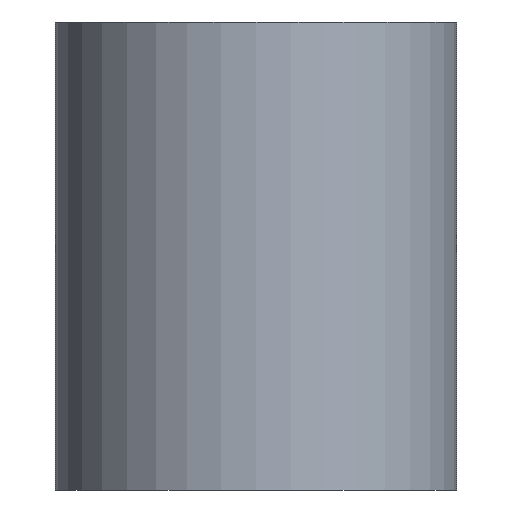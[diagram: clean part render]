
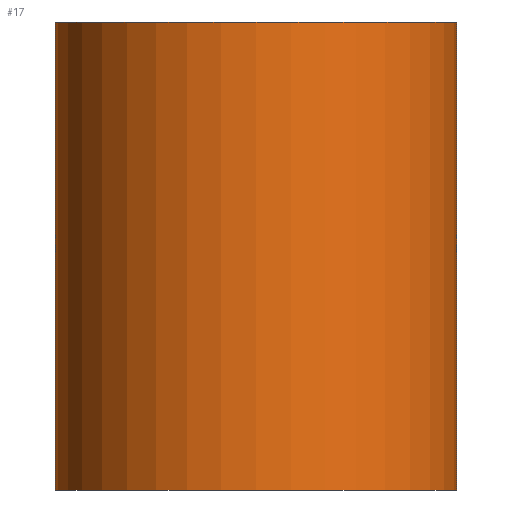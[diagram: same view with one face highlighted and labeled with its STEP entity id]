
A CAD part, front view. The second image highlights one B-rep face of the part: STEP entity #17.
In plain terms, the highlighted cylindrical face has radius 6 mm (diameter 12 mm), a full revolution.
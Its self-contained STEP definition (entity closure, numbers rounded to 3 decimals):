
#17 = ADVANCED_FACE('',(#18),#31,.T.);
#18 = FACE_BOUND('',#19,.T.);
#19 = EDGE_LOOP('',(#20,#54,#77,#104));
#20 = ORIENTED_EDGE('',*,*,#21,.F.);
#21 = EDGE_CURVE('',#22,#22,#24,.T.);
#22 = VERTEX_POINT('',#23);
#23 = CARTESIAN_POINT('',(27.4,21.4,-32.5));
#24 = SURFACE_CURVE('',#25,(#30,#42),.PCURVE_S1.);
#25 = CIRCLE('',#26,6.);
#26 = AXIS2_PLACEMENT_3D('',#27,#28,#29);
#27 = CARTESIAN_POINT('',(21.4,21.4,-32.5));
#28 = DIRECTION('',(0.,0.,1.));
#29 = DIRECTION('',(1.,0.,-0.));
#30 = PCURVE('',#31,#36);
#31 = CYLINDRICAL_SURFACE('',#32,6.);
#32 = AXIS2_PLACEMENT_3D('',#33,#34,#35);
#33 = CARTESIAN_POINT('',(21.4,21.4,-46.5));
#34 = DIRECTION('',(0.,0.,1.));
#35 = DIRECTION('',(1.,0.,-0.));
#36 = DEFINITIONAL_REPRESENTATION('',(#37),#41);
#37 = LINE('',#38,#39);
#38 = CARTESIAN_POINT('',(0.,14.));
#39 = VECTOR('',#40,1.);
#40 = DIRECTION('',(1.,0.));
#41 = ( GEOMETRIC_REPRESENTATION_CONTEXT(2) 
PARAMETRIC_REPRESENTATION_CONTEXT() REPRESENTATION_CONTEXT('2D SPACE',''
  ) );
#42 = PCURVE('',#43,#48);
#43 = PLANE('',#44);
#44 = AXIS2_PLACEMENT_3D('',#45,#46,#47);
#45 = CARTESIAN_POINT('',(21.4,21.4,-32.5));
#46 = DIRECTION('',(0.,0.,1.));
#47 = DIRECTION('',(1.,0.,-0.));
#48 = DEFINITIONAL_REPRESENTATION('',(#49),#53);
#49 = CIRCLE('',#50,6.);
#50 = AXIS2_PLACEMENT_2D('',#51,#52);
#51 = CARTESIAN_POINT('',(0.,0.));
#52 = DIRECTION('',(1.,0.));
#53 = ( GEOMETRIC_REPRESENTATION_CONTEXT(2) 
PARAMETRIC_REPRESENTATION_CONTEXT() REPRESENTATION_CONTEXT('2D SPACE',''
  ) );
#54 = ORIENTED_EDGE('',*,*,#55,.F.);
#55 = EDGE_CURVE('',#56,#22,#58,.T.);
#56 = VERTEX_POINT('',#57);
#57 = CARTESIAN_POINT('',(27.4,21.4,-46.5));
#58 = SEAM_CURVE('',#59,(#63,#70),.PCURVE_S1.);
#59 = LINE('',#60,#61);
#60 = CARTESIAN_POINT('',(27.4,21.4,-46.5));
#61 = VECTOR('',#62,1.);
#62 = DIRECTION('',(0.,0.,1.));
#63 = PCURVE('',#31,#64);
#64 = DEFINITIONAL_REPRESENTATION('',(#65),#69);
#65 = LINE('',#66,#67);
#66 = CARTESIAN_POINT('',(6.283,-0.));
#67 = VECTOR('',#68,1.);
#68 = DIRECTION('',(0.,1.));
#69 = ( GEOMETRIC_REPRESENTATION_CONTEXT(2) 
PARAMETRIC_REPRESENTATION_CONTEXT() REPRESENTATION_CONTEXT('2D SPACE',''
  ) );
#70 = PCURVE('',#31,#71);
#71 = DEFINITIONAL_REPRESENTATION('',(#72),#76);
#72 = LINE('',#73,#74);
#73 = CARTESIAN_POINT('',(0.,-0.));
#74 = VECTOR('',#75,1.);
#75 = DIRECTION('',(0.,1.));
#76 = ( GEOMETRIC_REPRESENTATION_CONTEXT(2) 
PARAMETRIC_REPRESENTATION_CONTEXT() REPRESENTATION_CONTEXT('2D SPACE',''
  ) );
#77 = ORIENTED_EDGE('',*,*,#78,.T.);
#78 = EDGE_CURVE('',#56,#56,#79,.T.);
#79 = SURFACE_CURVE('',#80,(#85,#92),.PCURVE_S1.);
#80 = CIRCLE('',#81,6.);
#81 = AXIS2_PLACEMENT_3D('',#82,#83,#84);
#82 = CARTESIAN_POINT('',(21.4,21.4,-46.5));
#83 = DIRECTION('',(0.,0.,1.));
#84 = DIRECTION('',(1.,0.,-0.));
#85 = PCURVE('',#31,#86);
#86 = DEFINITIONAL_REPRESENTATION('',(#87),#91);
#87 = LINE('',#88,#89);
#88 = CARTESIAN_POINT('',(0.,0.));
#89 = VECTOR('',#90,1.);
#90 = DIRECTION('',(1.,0.));
#91 = ( GEOMETRIC_REPRESENTATION_CONTEXT(2) 
PARAMETRIC_REPRESENTATION_CONTEXT() REPRESENTATION_CONTEXT('2D SPACE',''
  ) );
#92 = PCURVE('',#93,#98);
#93 = PLANE('',#94);
#94 = AXIS2_PLACEMENT_3D('',#95,#96,#97);
#95 = CARTESIAN_POINT('',(21.4,21.4,-46.5));
#96 = DIRECTION('',(0.,0.,1.));
#97 = DIRECTION('',(1.,0.,-0.));
#98 = DEFINITIONAL_REPRESENTATION('',(#99),#103);
#99 = CIRCLE('',#100,6.);
#100 = AXIS2_PLACEMENT_2D('',#101,#102);
#101 = CARTESIAN_POINT('',(0.,0.));
#102 = DIRECTION('',(1.,0.));
#103 = ( GEOMETRIC_REPRESENTATION_CONTEXT(2) 
PARAMETRIC_REPRESENTATION_CONTEXT() REPRESENTATION_CONTEXT('2D SPACE',''
  ) );
#104 = ORIENTED_EDGE('',*,*,#55,.T.);
